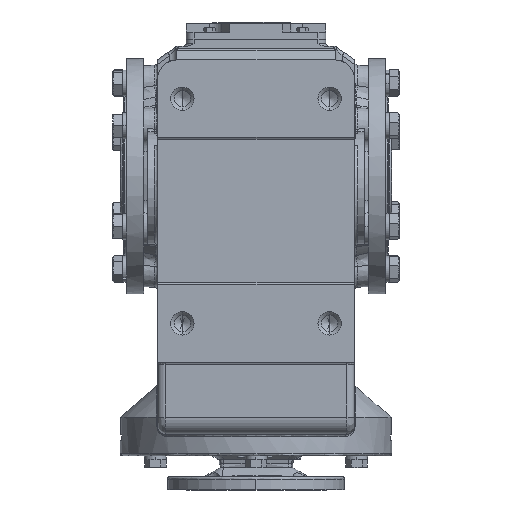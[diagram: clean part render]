
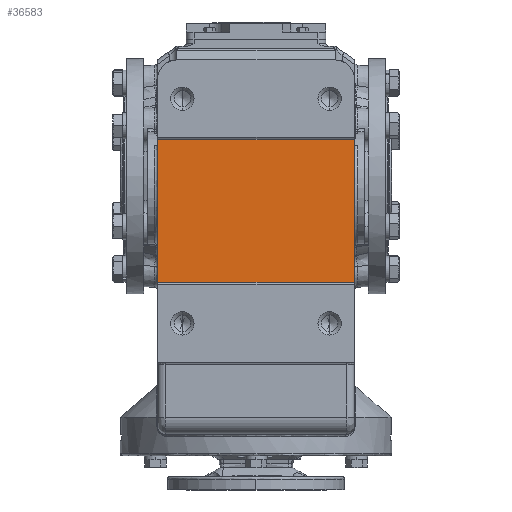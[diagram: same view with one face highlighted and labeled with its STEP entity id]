
A CAD part, front view. The second image highlights one B-rep face of the part: STEP entity #36583.
In plain terms, the highlighted planar face has unit normal (0, -1, 0).
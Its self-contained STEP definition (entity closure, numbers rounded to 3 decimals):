
#2181 = AXIS2_PLACEMENT_3D ( 'NONE', #19815, #19829, #19831 ) ;
#7669 = LINE ( 'NONE', #12991, #7672 ) ;
#7671 = LINE ( 'NONE', #12997, #7676 ) ;
#7672 = VECTOR ( 'NONE', #12992, 1000. ) ;
#7675 = LINE ( 'NONE', #13001, #7678 ) ;
#7676 = VECTOR ( 'NONE', #12993, 1000. ) ;
#7677 = LINE ( 'NONE', #13003, #7680 ) ;
#7678 = VECTOR ( 'NONE', #13002, 1000. ) ;
#7680 = VECTOR ( 'NONE', #13004, 1000. ) ;
#8308 = EDGE_CURVE ( 'NONE', #82570, #82555, #7669, .T. ) ;
#8311 = EDGE_CURVE ( 'NONE', #82555, #82574, #7671, .T. ) ;
#8312 = EDGE_CURVE ( 'NONE', #82574, #82575, #7675, .T. ) ;
#8313 = EDGE_CURVE ( 'NONE', #82570, #82575, #7677, .T. ) ;
#12991 = CARTESIAN_POINT ( 'NONE',  ( -127., -310., 47. ) ) ;
#12992 = DIRECTION ( 'NONE',  ( -1., 0., 0. ) ) ;
#12993 = DIRECTION ( 'NONE',  ( 0., 0., -1. ) ) ;
#12997 = CARTESIAN_POINT ( 'NONE',  ( -127., -310., -333. ) ) ;
#13001 = CARTESIAN_POINT ( 'NONE',  ( 102., -310., -137. ) ) ;
#13002 = DIRECTION ( 'NONE',  ( 1., 0., 0. ) ) ;
#13003 = CARTESIAN_POINT ( 'NONE',  ( 127., -310., -92.487 ) ) ;
#13004 = DIRECTION ( 'NONE',  ( 0., 0., -1. ) ) ;
#19815 = CARTESIAN_POINT ( 'NONE',  ( -127., -310., -333. ) ) ;
#19823 = PLANE ( 'NONE',  #2181 ) ;
#19829 = DIRECTION ( 'NONE',  ( 0., -1., 0. ) ) ;
#19831 = DIRECTION ( 'NONE',  ( 0., 0., -1. ) ) ;
#24612 = EDGE_LOOP ( 'NONE', ( #58859, #58863, #58869, #58873 ) ) ;
#33250 = FACE_OUTER_BOUND ( 'NONE', #24612, .T. ) ;
#36583 = ADVANCED_FACE ( 'NONE', ( #33250 ), #19823, .T. ) ;
#58859 = ORIENTED_EDGE ( 'NONE', *, *, #8311, .T. ) ;
#58863 = ORIENTED_EDGE ( 'NONE', *, *, #8312, .T. ) ;
#58869 = ORIENTED_EDGE ( 'NONE', *, *, #8313, .F. ) ;
#58873 = ORIENTED_EDGE ( 'NONE', *, *, #8308, .T. ) ;
#82555 = VERTEX_POINT ( 'NONE', #92470 ) ;
#82570 = VERTEX_POINT ( 'NONE', #92505 ) ;
#82574 = VERTEX_POINT ( 'NONE', #92514 ) ;
#82575 = VERTEX_POINT ( 'NONE', #92503 ) ;
#92470 = CARTESIAN_POINT ( 'NONE',  ( -127., -310., 47. ) ) ;
#92503 = CARTESIAN_POINT ( 'NONE',  ( 127., -310., -137. ) ) ;
#92505 = CARTESIAN_POINT ( 'NONE',  ( 127., -310., 47. ) ) ;
#92514 = CARTESIAN_POINT ( 'NONE',  ( -127., -310., -137. ) ) ;
